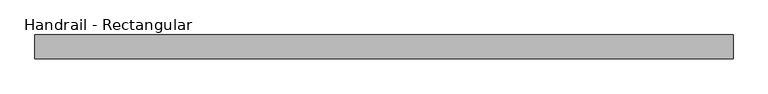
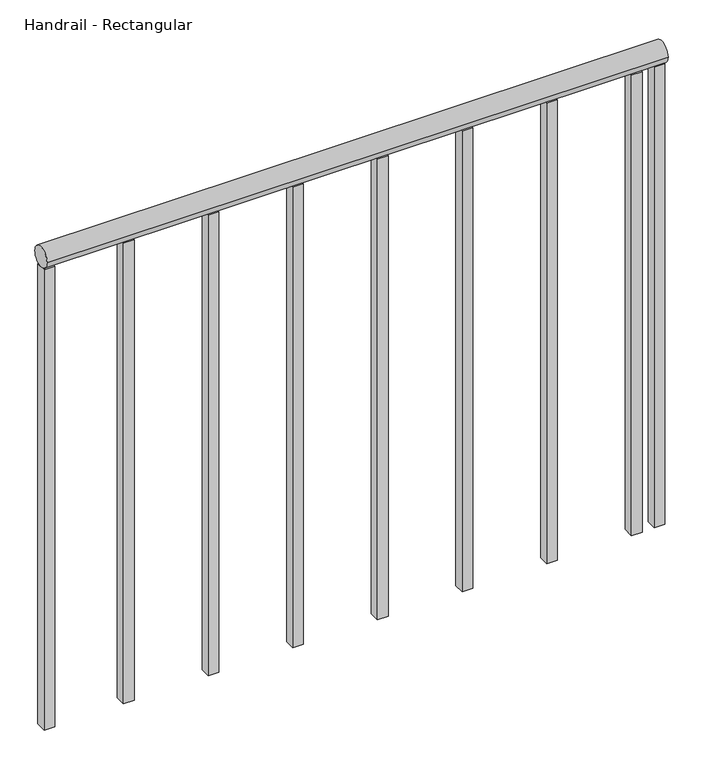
"""IFC4 building model written with IfcOpenShell, lengths in millimetres: railing geometry, Handrail - Rectangular."""

from ifc_helpers import new_model, si_unit, point, frame, frame_2d, origin, place, context, project, spatial, polyline, circle_curve, trimmed, segment, composite_curve, outline, extrude, source, transform, mapped, element, save


def handrail_rectangular_a494b855(model_context):
    return source(origin(), model_context, "Body", "SweptSolid", [
        extrude(outline(composite_curve([segment(trimmed(circle_curve(frame_2d((-27983.9683133, 3943.35)), 19.05), [point((-27964.9183133, 3943.35))], [point((-28003.0183133, 3943.35))], False, "CARTESIAN"), True, "CONTINUOUS"), segment(trimmed(circle_curve(frame_2d((-27983.9683133, 3943.35)), 19.05), [point((-28003.0183133, 3943.35))], [point((-27964.9183133, 3943.35))], False, "CARTESIAN"), True, "CONTINUOUS")], self_intersect=False)), frame((-31964.2839563, 0.0, 0.0), z_axis=(1.0, 0.0, 0.0), x_axis=(0.0, 1.0, 0.0)), (0.0, 0.0, 1.0), 1117.6),
        extrude(outline(polyline([(-30907.0089563, -27993.4933133), (-30907.0089563, -27974.4433133), (-30887.9589563, -27974.4433133), (-30887.9589563, -27993.4933133), (-30907.0089563, -27993.4933133)])), frame((0.0, 0.0, 3048.0), z_axis=(0.0, 0.0, 1.0), x_axis=(1.0, 0.0, 0.0)), (0.0, 0.0, 1.0), 876.3),
        extrude(outline(polyline([(-31059.4089563, -27993.4933133), (-31059.4089563, -27974.4433133), (-31040.3589563, -27974.4433133), (-31040.3589563, -27993.4933133), (-31059.4089563, -27993.4933133)])), frame((0.0, 0.0, 3048.0), z_axis=(0.0, 0.0, 1.0), x_axis=(1.0, 0.0, 0.0)), (0.0, 0.0, 1.0), 876.3),
        extrude(outline(polyline([(-31211.8089563, -27993.4933133), (-31211.8089563, -27974.4433133), (-31192.7589563, -27974.4433133), (-31192.7589563, -27993.4933133), (-31211.8089563, -27993.4933133)])), frame((0.0, 0.0, 3048.0), z_axis=(0.0, 0.0, 1.0), x_axis=(1.0, 0.0, 0.0)), (0.0, 0.0, 1.0), 876.3),
        extrude(outline(polyline([(-31364.2089563, -27993.4933133), (-31364.2089563, -27974.4433133), (-31345.1589563, -27974.4433133), (-31345.1589563, -27993.4933133), (-31364.2089563, -27993.4933133)])), frame((0.0, 0.0, 3048.0), z_axis=(0.0, 0.0, 1.0), x_axis=(1.0, 0.0, 0.0)), (0.0, 0.0, 1.0), 876.3),
        extrude(outline(polyline([(-31516.6089563, -27993.4933133), (-31516.6089563, -27974.4433133), (-31497.5589563, -27974.4433133), (-31497.5589563, -27993.4933133), (-31516.6089563, -27993.4933133)])), frame((0.0, 0.0, 3048.0), z_axis=(0.0, 0.0, 1.0), x_axis=(1.0, 0.0, 0.0)), (0.0, 0.0, 1.0), 876.3),
        extrude(outline(polyline([(-31669.0089563, -27993.4933133), (-31669.0089563, -27974.4433133), (-31649.9589563, -27974.4433133), (-31649.9589563, -27993.4933133), (-31669.0089563, -27993.4933133)])), frame((0.0, 0.0, 3048.0), z_axis=(0.0, 0.0, 1.0), x_axis=(1.0, 0.0, 0.0)), (0.0, 0.0, 1.0), 876.3),
        extrude(outline(polyline([(-31821.4089563, -27993.4933133), (-31821.4089563, -27974.4433133), (-31802.3589563, -27974.4433133), (-31802.3589563, -27993.4933133), (-31821.4089563, -27993.4933133)])), frame((0.0, 0.0, 3048.0), z_axis=(0.0, 0.0, 1.0), x_axis=(1.0, 0.0, 0.0)), (0.0, 0.0, 1.0), 876.3),
        extrude(outline(polyline([(-30865.7339563, -27993.4933133), (-30865.7339563, -27974.4433133), (-30846.6839563, -27974.4433133), (-30846.6839563, -27993.4933133), (-30865.7339563, -27993.4933133)])), frame((0.0, 0.0, 3048.0), z_axis=(0.0, 0.0, 1.0), x_axis=(1.0, 0.0, 0.0)), (0.0, 0.0, 1.0), 876.3),
        extrude(outline(polyline([(-31964.2839563, -27993.4933133), (-31964.2839563, -27974.4433133), (-31945.2339563, -27974.4433133), (-31945.2339563, -27993.4933133), (-31964.2839563, -27993.4933133)])), frame((0.0, 0.0, 3048.0), z_axis=(0.0, 0.0, 1.0), x_axis=(1.0, 0.0, 0.0)), (0.0, 0.0, 1.0), 876.3),
    ])


if __name__ == "__main__":
    model = new_model("IFC4")
    model_context = context("Model", 3, world=origin())
    ifc_project = project(units=[si_unit("LENGTHUNIT", "METRE", prefix="MILLI")], contexts=[model_context])
    site = spatial("IfcSite", under=ifc_project)
    building = spatial("IfcBuilding", under=site)
    placement = place(None, origin())
    handrail_rectangular_shape = handrail_rectangular_a494b855(model_context)
    element("IfcRailing", 1, ObjectType="Handrail - Rectangular", at=placement, inside=building, context=model_context, shape_type="MappedRepresentation", body=[
        mapped(handrail_rectangular_shape, transform((0.0, 0.0, 0.0), x_axis=(1.0, 0.0, 0.0), y_axis=(0.0, 1.0, 0.0), z_axis=(0.0, 0.0, 1.0))),
    ])
    save(model, "model.ifc")
